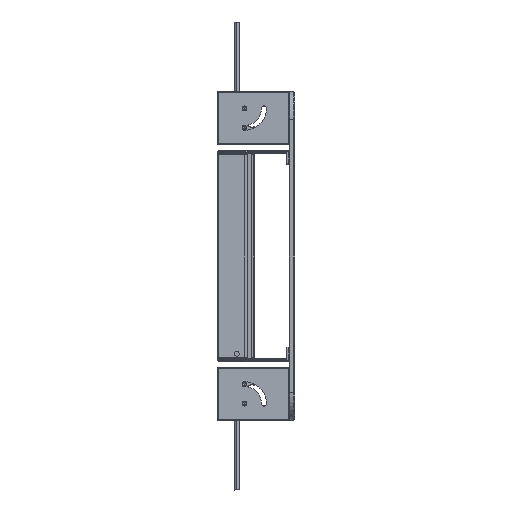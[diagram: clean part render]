
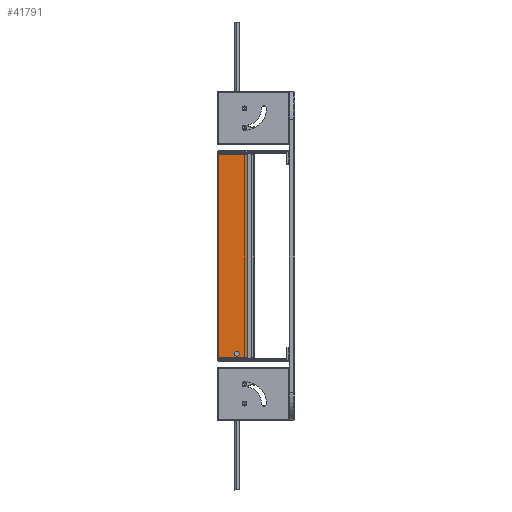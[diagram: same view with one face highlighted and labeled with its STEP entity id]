
A CAD part, left-side view. The second image highlights one B-rep face of the part: STEP entity #41791.
In plain terms, the highlighted planar face has unit normal (-1, 0, 0).
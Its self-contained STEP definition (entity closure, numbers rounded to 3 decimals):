
#159 = AXIS2_PLACEMENT_3D ( 'NONE', #31208, #11192, #27641 ) ;
#2231 = EDGE_CURVE ( 'NONE', #30515, #5243, #6609, .T. ) ;
#2889 = VERTEX_POINT ( 'NONE', #33812 ) ;
#4511 = CARTESIAN_POINT ( 'NONE',  ( -118., 55., -73. ) ) ;
#4732 = EDGE_CURVE ( 'NONE', #5243, #30515, #16047, .T. ) ;
#5243 = VERTEX_POINT ( 'NONE', #11582 ) ;
#6609 = CIRCLE ( 'NONE', #38653, 1.75 ) ;
#8416 = DIRECTION ( 'NONE',  ( 0., 0., 1. ) ) ;
#8477 = LINE ( 'NONE', #14202, #31860 ) ;
#8547 = VECTOR ( 'NONE', #9751, 1000. ) ;
#8942 = EDGE_CURVE ( 'NONE', #32859, #19796, #15496, .T. ) ;
#9751 = DIRECTION ( 'NONE',  ( 0., 0., 1. ) ) ;
#10461 = EDGE_CURVE ( 'NONE', #2889, #17044, #23760, .T. ) ;
#11030 = ORIENTED_EDGE ( 'NONE', *, *, #22307, .T. ) ;
#11192 = DIRECTION ( 'NONE',  ( -1., 0., 0. ) ) ;
#11582 = CARTESIAN_POINT ( 'NONE',  ( -118., 41.5, -72. ) ) ;
#12311 = CARTESIAN_POINT ( 'NONE',  ( -118., 34., -73.5 ) ) ;
#13585 = FACE_BOUND ( 'NONE', #14564, .T. ) ;
#14202 = CARTESIAN_POINT ( 'NONE',  ( -118., 28.5, 73. ) ) ;
#14564 = EDGE_LOOP ( 'NONE', ( #35008, #25818 ) ) ;
#15481 = DIRECTION ( 'NONE',  ( 0., 0., 1. ) ) ;
#15496 = LINE ( 'NONE', #32900, #8547 ) ;
#16005 = EDGE_CURVE ( 'NONE', #17044, #19796, #8477, .T. ) ;
#16047 = CIRCLE ( 'NONE', #18117, 1.75 ) ;
#17044 = VERTEX_POINT ( 'NONE', #28503 ) ;
#18117 = AXIS2_PLACEMENT_3D ( 'NONE', #42716, #35327, #15481 ) ;
#18197 = CARTESIAN_POINT ( 'NONE',  ( -118., 41.5, -68.5 ) ) ;
#19796 = VERTEX_POINT ( 'NONE', #25367 ) ;
#21193 = PLANE ( 'NONE',  #159 ) ;
#22307 = EDGE_CURVE ( 'NONE', #32859, #2889, #35621, .T. ) ;
#23195 = FACE_OUTER_BOUND ( 'NONE', #27000, .T. ) ;
#23760 = LINE ( 'NONE', #12311, #36417 ) ;
#24424 = ORIENTED_EDGE ( 'NONE', *, *, #8942, .F. ) ;
#25367 = CARTESIAN_POINT ( 'NONE',  ( -118., 55., 73. ) ) ;
#25818 = ORIENTED_EDGE ( 'NONE', *, *, #4732, .T. ) ;
#27000 = EDGE_LOOP ( 'NONE', ( #11030, #41083, #40946, #24424 ) ) ;
#27641 = DIRECTION ( 'NONE',  ( 0., 0., 1. ) ) ;
#28503 = CARTESIAN_POINT ( 'NONE',  ( -118., 34., 73. ) ) ;
#28667 = CARTESIAN_POINT ( 'NONE',  ( -118., 28.5, -73. ) ) ;
#30515 = VERTEX_POINT ( 'NONE', #18197 ) ;
#31208 = CARTESIAN_POINT ( 'NONE',  ( -118., 28.5, -73.5 ) ) ;
#31860 = VECTOR ( 'NONE', #34360, 1000. ) ;
#32644 = DIRECTION ( 'NONE',  ( 0., 0., 1. ) ) ;
#32859 = VERTEX_POINT ( 'NONE', #4511 ) ;
#32900 = CARTESIAN_POINT ( 'NONE',  ( -118., 55., 0. ) ) ;
#32947 = CARTESIAN_POINT ( 'NONE',  ( -118., 41.5, -70.25 ) ) ;
#33812 = CARTESIAN_POINT ( 'NONE',  ( -118., 34., -73. ) ) ;
#34360 = DIRECTION ( 'NONE',  ( 0., 1., 0. ) ) ;
#34881 = DIRECTION ( 'NONE',  ( 0., -1., 0. ) ) ;
#35008 = ORIENTED_EDGE ( 'NONE', *, *, #2231, .T. ) ;
#35327 = DIRECTION ( 'NONE',  ( 1., 0., 0. ) ) ;
#35621 = LINE ( 'NONE', #28667, #39862 ) ;
#36417 = VECTOR ( 'NONE', #8416, 1000. ) ;
#38653 = AXIS2_PLACEMENT_3D ( 'NONE', #32947, #42558, #32644 ) ;
#39862 = VECTOR ( 'NONE', #34881, 1000. ) ;
#40946 = ORIENTED_EDGE ( 'NONE', *, *, #16005, .T. ) ;
#41083 = ORIENTED_EDGE ( 'NONE', *, *, #10461, .T. ) ;
#41791 = ADVANCED_FACE ( 'NONE', ( #13585, #23195 ), #21193, .T. ) ;
#42558 = DIRECTION ( 'NONE',  ( 1., 0., 0. ) ) ;
#42716 = CARTESIAN_POINT ( 'NONE',  ( -118., 41.5, -70.25 ) ) ;
